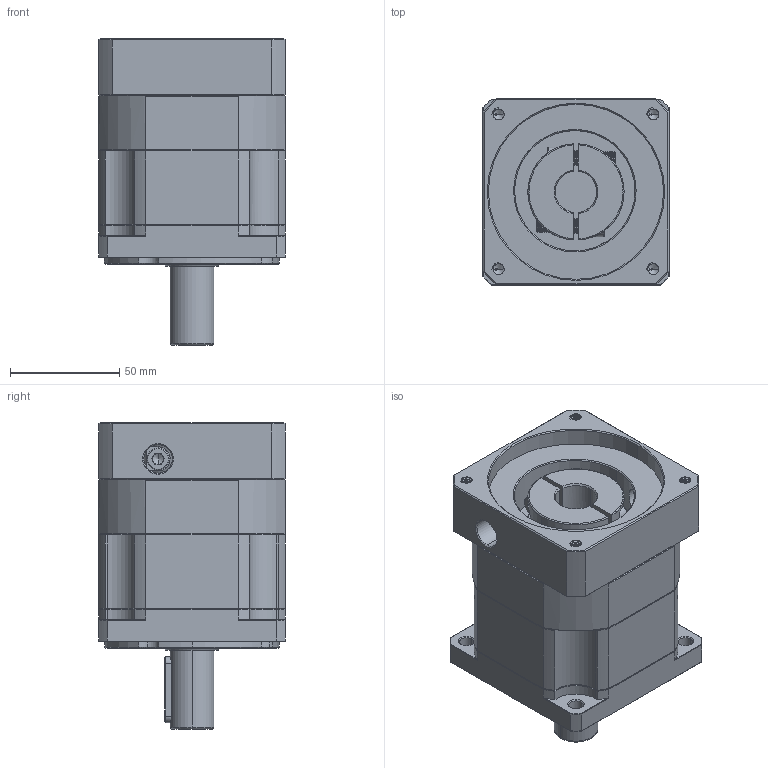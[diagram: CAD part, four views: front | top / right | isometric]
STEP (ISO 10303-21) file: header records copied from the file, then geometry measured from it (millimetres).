
FILE_DESCRIPTION (( 'STEP AP214' ), '1' );
FILE_NAME ('ZB90-D20-L1-19-80-100-M6.STEP', '2022-05-02T15:50:26', ( '' ), ( 'Microsoft' ), 'SwSTEP 2.0', 'SolidWorks 2016', '' );
FILE_SCHEMA (( 'AUTOMOTIVE_DESIGN' ));
Length unit declared in the file: millimetre
Products named in the file (1): ZB90-D20-L1-19-80-100-M6
Bounding box: 85 x 85 x 140 mm (x, y, z)
Volume: 597026.8 mm3; surface area: 86399 mm2
Topology: 4 solids, 5 shells, 1942 faces, 5067 edges, 3205 vertices
Faces by surface type: plane 886, cylinder 396, cone 334, bspline 299, torus 27
Entity records: 104704 total; most frequent: CARTESIAN_POINT 38405, ORIENTED_EDGE 10090, DIRECTION 8189, EDGE_CURVE 5045, VERTEX_POINT 3205, LINE 3101, VECTOR 3101, AXIS2_PLACEMENT_3D 2544
